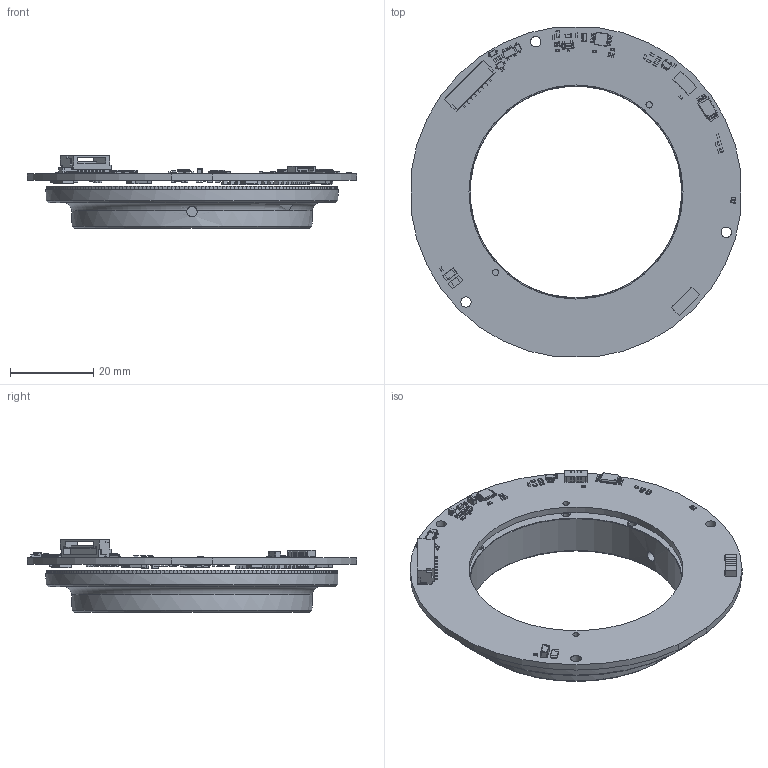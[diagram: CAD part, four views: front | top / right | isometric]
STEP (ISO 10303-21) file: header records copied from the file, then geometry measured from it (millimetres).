
FILE_DESCRIPTION(/* description */ (''),/* implementation_level */ '2;1');
FILE_NAME(/* name */ 'EAS-017.stp',/* time_stamp */ '2026-07-10T13:16:16+08:00',/* author */ (''),/* organization */ (''),/* preprocessor_version */ 'ST-DEVELOPER v20',/* originating_system */ 'SIEMENS PLM Software NX2312.1700',/* authorisation */ '');
FILE_SCHEMA (('AP203_CONFIGURATION_CONTROLLED_3D_DESIGN_OF_MECHANICAL_PARTS_AND_ASSEMBLIES_MIM_LF { 1 0 10303 403 2 1 2}'));
Products named in the file (1): EAS-017 20260702_objects
Bounding box: 79.4 x 79.4 x 17.45 mm (x, y, z)
Volume: 15874.3 mm3; surface area: 19809.8 mm2
Topology: 824 solids, 825 shells, 11716 faces, 28669 edges, 18273 vertices
Faces by surface type: plane 8317, cylinder 2677, sphere 527, bspline 104, torus 41, extrusion 35, cone 15
Full cylindrical faces by diameter (mm): 0.3 x1, 1.5 x4, 1.6 x4, 2.5 x5, 51 x1, 51.6 x1, 57.6 x1, 58 x1, 61 x1, 66 x1, 70.5 x1
Entity records: 350201 total; most frequent: CARTESIAN_POINT 64400, ORIENTED_EDGE 56330, DIRECTION 55474, EDGE_CURVE 28165, VECTOR 22086, LINE 22051, VERTEX_POINT 18246, AXIS2_PLACEMENT_3D 16694
